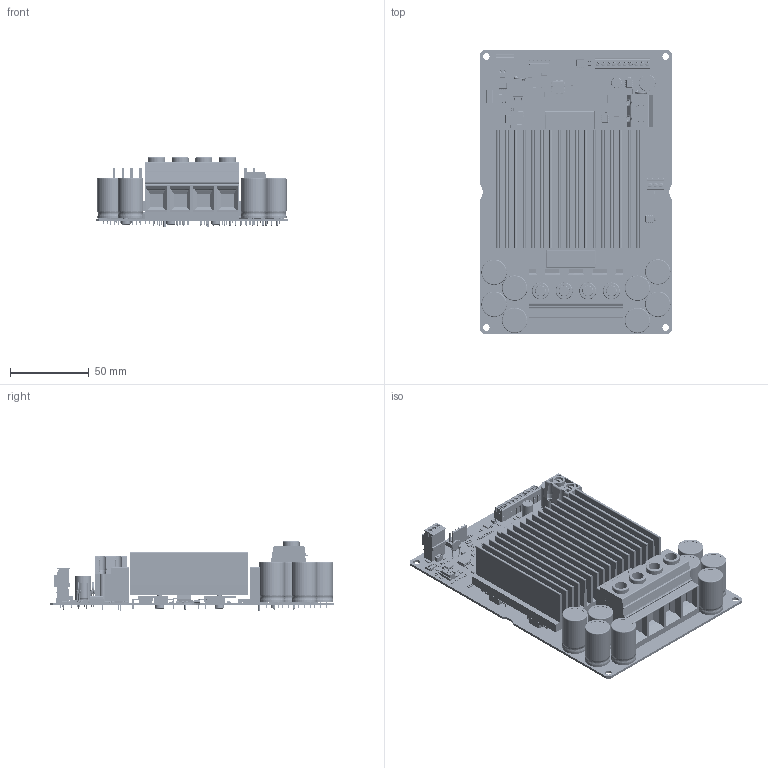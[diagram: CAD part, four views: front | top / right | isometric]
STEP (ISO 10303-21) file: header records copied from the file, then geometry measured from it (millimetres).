
FILE_DESCRIPTION(('STEP AP214'),'1');
FILE_NAME('EM-282D_v4.step','2023-10-23T07:02:18',(' '),(' '),'Spatial InterOp 3D','XD3DPlugin XRACreate',' ');
FILE_SCHEMA(('automotive_design'));
Length unit declared in the file: millimetre
Products named in the file (162): Submodel-Z:\TUOTTEET\EM-282D\Ver4\PCB\EM-282D_v4_PCB\3D\Input_S\RES 0805.xtd; RES 0805; Submodel-RES0805_1K_part_simplified_0805; DesignRootModel; Submodel-Z:\TUOTTEET\EM-282D\Ver4\PCB\EM-282D_v4_PCB\3D\Input_S\CAP 1206.xtd; CAP 1206; Submodel-CAP1206_470NF_part_simplified_1206; Submodel-Z:\TUOTTEET\EM-282D\Ver4\PCB\EM-282D_v4_PCB\3D\Input_S\DO219AB.xtd; DO219AB; Submodel-RS07J-GS08_1A600V_DO219AB-2_part_simplified_DO-219AB-SMF; Submodel-RES0805_10R_part_simplified_0805; Submodel-Z:\TUOTTEET\EM-282D\Ver4\PCB\EM-282D_v4_PCB\3D\Input_S\CSTCE 8MHz resonator.xtd; CSTCE 8MHz resonator; Submodel-CSTCE8M_8MHZ_SMD-RESONATOR_part_simplified_MXC8_TDK_CR; Submodel-RES0805_22K_part_simplified_0805; Submodel-Z:\TUOTTEET\EM-282D\Ver4\PCB\EM-282D_v4_PCB\3D\Input_S\CAP 0603.xtd; CAP 0603; Submodel-CAP0603_1NF_part_simplified_0603; Submodel-RES0805_4K7_part_simplified_0805; Submodel-RES0805_2K2_part_simplified_0805; Submodel-CAP0603_10NF_part_simplified_0603; Submodel-RES0805_47K_part_simplified_0805; Submodel-RES0805_150R_part_simplified_0805; Submodel-RES0805_10K_part_simplified_0805; Submodel-RES0805_100K_part_simplified_0805; Submodel-CAP0603_100NF_part_simplified_0603; Submodel-Z:\TUOTTEET\EM-282D\Ver4\PCB\EM-282D_v4_PCB\3D\Input_S\sil socket 2-way.xtd; sil socket 2-way; Submodel-SW_V_SIL2_RESISTOR_SOCKET_part_simplified_SIL2-V-2.54_SOCKET; Submodel-Z:\TUOTTEET\EM-282D\Ver4\PCB\EM-282D_v4_PCB\3D\Input_S\SO-8.xtd; SO-8; Submodel-ST485EBDR_SO8_RS-485_TRANSCEIVER_part_simplified_SO8; Submodel-Z:\TUOTTEET\EM-282D\Ver4\PCB\EM-282D_v4_PCB\3D\Input_S\SOT-23.xtd; SOT-23; Submodel-SM712_7_slash_12V_slash_600W-BIDIR-TVS_part_simplified_SOT23; Submodel-RES0805_33K_part_simplified_0805; Submodel-Z:\TUOTTEET\EM-282D\Ver4\PCB\EM-282D_v4_PCB\3D\Input_S\MO-187CA.xtd; MO-187CA; Submodel-NC7WZ86_MO187_DUAL_2-INPUT_XOR_part_simplified_MO-187; Submodel-Z:\TUOTTEET\EM-282D\Ver4\PCB\EM-282D_v4_PCB\3D\Input_S\pxc_1843619_03_MCV-1-5-3-G-3-5_3D.xtd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
Assembly tree (314 placements, depth 5):
  EM-282D_v4
    DesignRootModel
      Submodel-RES0805_1K_part_simplified_0805  x9
        Submodel-Z:\TUOTTEET\EM-282D\Ver4\PCB\EM-282D_v4_PCB\3D\Input_S\RES 0805.xtd
          RES 0805
      Submodel-CAP1206_470NF_part_simplified_1206  x8
        Submodel-Z:\TUOTTEET\EM-282D\Ver4\PCB\EM-282D_v4_PCB\3D\Input_S\CAP 1206.xtd
          CAP 1206
      Submodel-RS07J-GS08_1A600V_DO219AB-2_part_simplified_DO-219AB-SMF  x4
        Submodel-Z:\TUOTTEET\EM-282D\Ver4\PCB\EM-282D_v4_PCB\3D\Input_S\DO219AB.xtd
          DO219AB
      Submodel-RES0805_10R_part_simplified_0805  x9
        Submodel-Z:\TUOTTEET\EM-282D\Ver4\PCB\EM-282D_v4_PCB\3D\Input_S\RES 0805.xtd
          RES 0805
      Submodel-CSTCE8M_8MHZ_SMD-RESONATOR_part_simplified_MXC8_TDK_CR
        Submodel-Z:\TUOTTEET\EM-282D\Ver4\PCB\EM-282D_v4_PCB\3D\Input_S\CSTCE 8MHz resonator.xtd
          CSTCE 8MHz resonator
      Submodel-RES0805_22K_part_simplified_0805  x3
        Submodel-Z:\TUOTTEET\EM-282D\Ver4\PCB\EM-282D_v4_PCB\3D\Input_S\RES 0805.xtd
          RES 0805
      Submodel-CAP0603_1NF_part_simplified_0603  x11
        Submodel-Z:\TUOTTEET\EM-282D\Ver4\PCB\EM-282D_v4_PCB\3D\Input_S\CAP 0603.xtd
          CAP 0603
      Submodel-RES0805_4K7_part_simplified_0805  x2
        Submodel-Z:\TUOTTEET\EM-282D\Ver4\PCB\EM-282D_v4_PCB\3D\Input_S\RES 0805.xtd
          RES 0805
      Submodel-RES0805_2K2_part_simplified_0805  x5
        Submodel-Z:\TUOTTEET\EM-282D\Ver4\PCB\EM-282D_v4_PCB\3D\Input_S\RES 0805.xtd
          RES 0805
      Submodel-CAP0603_10NF_part_simplified_0603
        Submodel-Z:\TUOTTEET\EM-282D\Ver4\PCB\EM-282D_v4_PCB\3D\Input_S\CAP 0603.xtd
          CAP 0603
      Submodel-RES0805_47K_part_simplified_0805  x9
        Submodel-Z:\TUOTTEET\EM-282D\Ver4\PCB\EM-282D_v4_PCB\3D\Input_S\RES 0805.xtd
          RES 0805
      Submodel-RES0805_150R_part_simplified_0805
        Submodel-Z:\TUOTTEET\EM-282D\Ver4\PCB\EM-282D_v4_PCB\3D\Input_S\RES 0805.xtd
          RES 0805
      Submodel-RES0805_10K_part_simplified_0805  x12
        Submodel-Z:\TUOTTEET\EM-282D\Ver4\PCB\EM-282D_v4_PCB\3D\Input_S\RES 0805.xtd
          RES 0805
      Submodel-RES0805_100K_part_simplified_0805  x6
        Submodel-Z:\TUOTTEET\EM-282D\Ver4\PCB\EM-282D_v4_PCB\3D\Input_S\RES 0805.xtd
          RES 0805
      Submodel-CAP0603_100NF_part_simplified_0603  x6
        Submodel-Z:\TUOTTEET\EM-282D\Ver4\PCB\EM-282D_v4_PCB\3D\Input_S\CAP 0603.xtd
          CAP 0603
      Submodel-SW_V_SIL2_RESISTOR_SOCKET_part_simplified_SIL2-V-2.54_SOCKET
        Submodel-Z:\TUOTTEET\EM-282D\Ver4\PCB\EM-282D_v4_PCB\3D\Input_S\sil socket 2-way.xtd
          sil socket 2-way
      Submodel-ST485EBDR_SO8_RS-485_TRANSCEIVER_part_simplified_SO8
        Submodel-Z:\TUOTTEET\EM-282D\Ver4\PCB\EM-282D_v4_PCB\3D\Input_S\SO-8.xtd
          SO-8
      Submodel-SM712_7_slash_12V_slash_600W-BIDIR-TVS_part_simplified_SOT23
        Submodel-Z:\TUOTTEET\EM-282D\Ver4\PCB\EM-282D_v4_PCB\3D\Input_S\SOT-23.xtd
          SOT-23
      Submodel-RES0805_33K_part_simplified_0805  x2
        Submodel-Z:\TUOTTEET\EM-282D\Ver4\PCB\EM-282D_v4_PCB\3D\Input_S\RES 0805.xtd
          RES 0805
      Submodel-NC7WZ86_MO187_DUAL_2-INPUT_XOR_part_simplified_MO-187
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Bounding box: 122 x 180 x 44 mm (x, y, z)
Volume: 260386 mm3; surface area: 193633.7 mm2
Topology: 427 solids, 2737 shells, 20835 faces, 59950 edges, 41944 vertices
Faces by surface type: plane 14299, cylinder 4310, sphere 913, torus 644, bspline 530, cone 133, revolution 6
Full cylindrical faces by diameter (mm): 0.6 x2, 0.7 x16, 2.8 x10, 3 x6, 4.2 x4, 6 x6, 10.5 x2, 12 x8, 16.1 x16
Entity records: 1367618 total; most frequent: ORIENTED_EDGE 250951, DIRECTION 221243, CARTESIAN_POINT 131273, EDGE_CURVE 125902, LINE 119042, VECTOR 119042, VERTEX_POINT 83802, AXIS2_PLACEMENT_3D 51100
